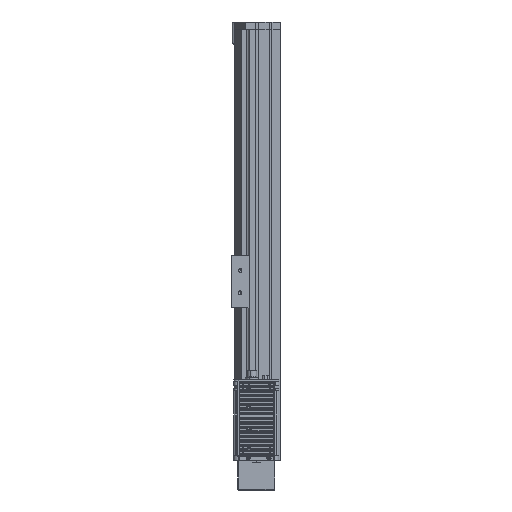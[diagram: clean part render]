
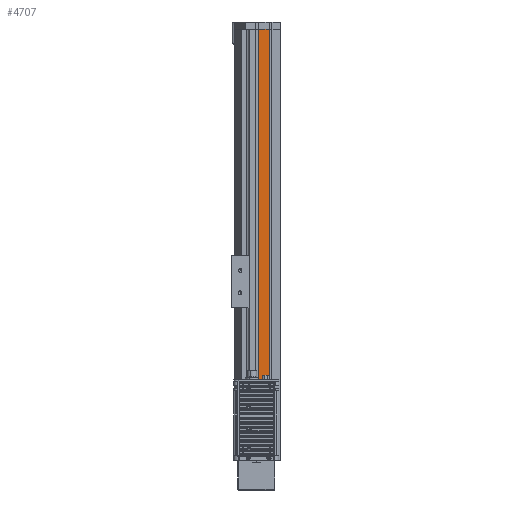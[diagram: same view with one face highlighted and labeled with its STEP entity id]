
A CAD part, left-side view. The second image highlights one B-rep face of the part: STEP entity #4707.
In plain terms, the highlighted planar face has unit normal (-1, 0, 0).
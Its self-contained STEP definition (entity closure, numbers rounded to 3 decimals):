
#3749 = VERTEX_POINT ( 'NONE', #19866 ) ;
#3950 = ORIENTED_EDGE ( 'NONE', *, *, #4421, .F. ) ;
#3962 = VERTEX_POINT ( 'NONE', #20189 ) ;
#4047 = VERTEX_POINT ( 'NONE', #20313 ) ;
#4073 = EDGE_LOOP ( 'NONE', ( #3950, #4594, #4386, #4271 ) ) ;
#4239 = EDGE_CURVE ( 'NONE', #3749, #4047, #20605, .T. ) ;
#4271 = ORIENTED_EDGE ( 'NONE', *, *, #4347, .T. ) ;
#4347 = EDGE_CURVE ( 'NONE', #4047, #4406, #20894, .T. ) ;
#4386 = ORIENTED_EDGE ( 'NONE', *, *, #4239, .T. ) ;
#4406 = VERTEX_POINT ( 'NONE', #20975 ) ;
#4417 = EDGE_CURVE ( 'NONE', #3749, #3962, #21029, .T. ) ;
#4421 = EDGE_CURVE ( 'NONE', #3962, #4406, #21081, .T. ) ;
#4594 = ORIENTED_EDGE ( 'NONE', *, *, #4417, .F. ) ;
#4707 = ADVANCED_FACE ( 'NONE', ( #21184 ), #21167, .F. ) ;
#19866 = CARTESIAN_POINT ( 'NONE',  ( -50., 30., 580. ) ) ;
#20189 = CARTESIAN_POINT ( 'NONE',  ( -50., 15.5, 580. ) ) ;
#20313 = CARTESIAN_POINT ( 'NONE',  ( -50., 30., 0. ) ) ;
#20605 = LINE ( 'NONE', #20662, #20661 ) ;
#20660 = DIRECTION ( 'NONE',  ( 0., 0., -1. ) ) ;
#20661 = VECTOR ( 'NONE', #20660, 1000. ) ;
#20662 = CARTESIAN_POINT ( 'NONE',  ( -50., 30., 1400. ) ) ;
#20891 = DIRECTION ( 'NONE',  ( 0., -1., 0. ) ) ;
#20892 = VECTOR ( 'NONE', #20891, 1000. ) ;
#20893 = CARTESIAN_POINT ( 'NONE',  ( -50., 15.5, 0. ) ) ;
#20894 = LINE ( 'NONE', #20893, #20892 ) ;
#20975 = CARTESIAN_POINT ( 'NONE',  ( -50., 15.5, 0. ) ) ;
#21015 = DIRECTION ( 'NONE',  ( 0., -1., 0. ) ) ;
#21028 = CARTESIAN_POINT ( 'NONE',  ( -50., 30., 580. ) ) ;
#21029 = LINE ( 'NONE', #21028, #21037 ) ;
#21037 = VECTOR ( 'NONE', #21015, 1000. ) ;
#21077 = DIRECTION ( 'NONE',  ( 0., 0., -1. ) ) ;
#21078 = VECTOR ( 'NONE', #21077, 1000. ) ;
#21080 = CARTESIAN_POINT ( 'NONE',  ( -50., 15.5, 1400. ) ) ;
#21081 = LINE ( 'NONE', #21080, #21078 ) ;
#21162 = DIRECTION ( 'NONE',  ( 0., 0., -1. ) ) ;
#21163 = DIRECTION ( 'NONE',  ( 1., 0., 0. ) ) ;
#21164 = CARTESIAN_POINT ( 'NONE',  ( -50., 15.5, 1400. ) ) ;
#21165 = AXIS2_PLACEMENT_3D ( 'NONE', #21164, #21163, #21162 ) ;
#21167 = PLANE ( 'NONE',  #21165 ) ;
#21184 = FACE_OUTER_BOUND ( 'NONE', #4073, .T. ) ;
